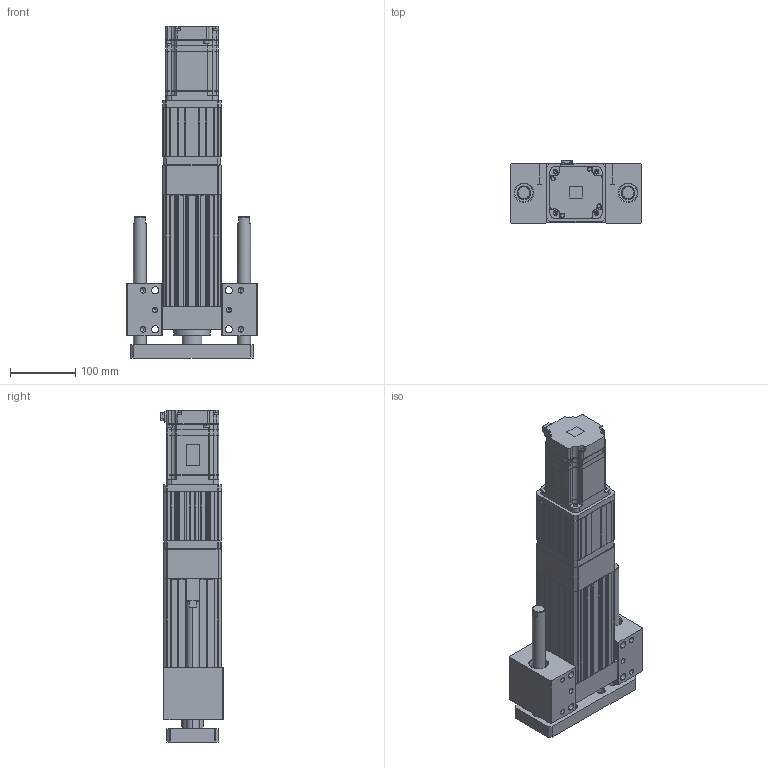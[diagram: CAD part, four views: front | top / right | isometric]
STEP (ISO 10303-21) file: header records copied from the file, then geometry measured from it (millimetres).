
FILE_DESCRIPTION (( 'STEP AP203' ), '1' );
FILE_NAME ('ANS090R-HS050-05(10)(20)-W75.STEP', '2019-03-02T09:12:26', ( 'user' ), ( '' ), 'SwSTEP 2.0', 'SolidWorks 2013', '' );
FILE_SCHEMA (( 'CONFIG_CONTROL_DESIGN' ));
Length unit declared in the file: millimetre
Products named in the file (4): ANS090R HS050 VER2; SGMJV_08A_A21; ANS090 ROD ST050-H; ANS090R-HS050-05(10)(20)-W75
Assembly tree (3 placements, depth 2):
  ANS090R-HS050-05(10)(20)-W75
    ANS090R HS050 VER2
    SGMJV_08A_A21
    ANS090 ROD ST050-H
Bounding box: 200 x 95.8 x 510.1 mm (x, y, z)
Volume: 3377819.2 mm3; surface area: 496186.2 mm2
Topology: 3 solids, 3 shells, 1600 faces, 4288 edges, 2780 vertices
Faces by surface type: plane 982, cylinder 486, cone 128, bspline 4
Entity records: 50298 total; most frequent: CARTESIAN_POINT 9440, ORIENTED_EDGE 8528, DIRECTION 8312, EDGE_CURVE 4264, VECTOR 3080, LINE 3080, VERTEX_POINT 2780, AXIS2_PLACEMENT_3D 2616
